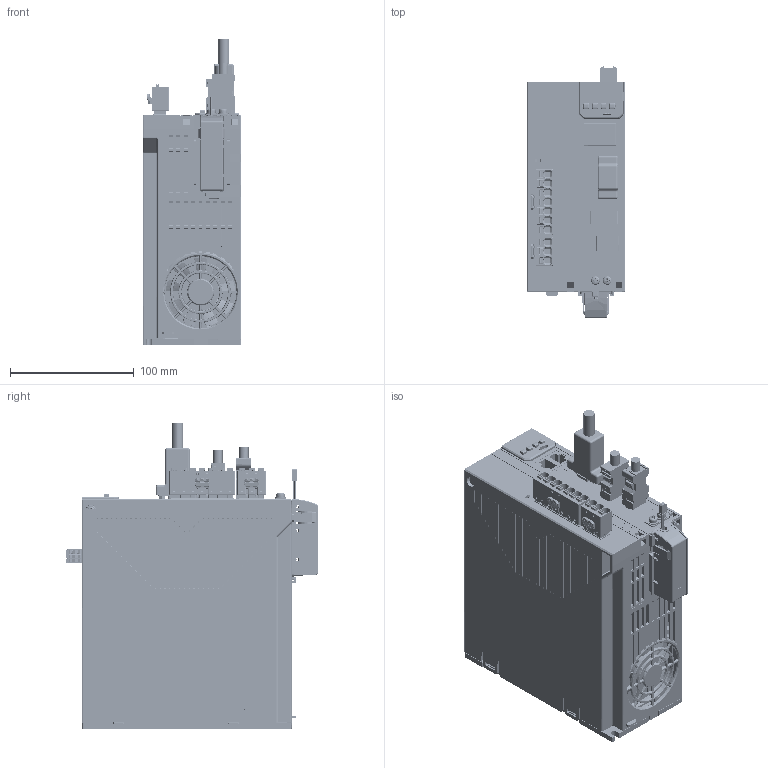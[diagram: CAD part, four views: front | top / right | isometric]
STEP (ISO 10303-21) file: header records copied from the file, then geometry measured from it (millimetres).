
FILE_DESCRIPTION((''),'2;1');
FILE_NAME('SD900-110D-EA_ASM','2025-09-28T',('v5489'),(''),'CREO PARAMETRIC BY PTC INC, 2018360','CREO PARAMETRIC BY PTC INC, 2018360','');
FILE_SCHEMA(('AP203_CONFIGURATION_CONTROLLED_3D_DESIGN_OF_MECHANICAL_PARTS_AND_ASSEMBLIES_MIM_LF { 1 0 10303 403 2 1 2 }'));
Products named in the file (19): 00-SD900-110D-EA_ASM_1_1; 00-SD900-110D-EA_ASM_1_2; 00-SD900-110D-EA_ASM_1_ASM; SD900-DCH-P001_284; SD900-DCH-N001_98; 14505_50_1; 14505_50_2; 14505_50_3; 14505_50_ASM; S6-C4A_31; SD900-DCH-P_ASM_535_ASM; SD900-DCH-P_ASM_ASM; 5006540609; 1394SM_10P_; F9AP-7_5-03P-A; F9AP-7_5-07P-A; DB-15-1; 15EDGKNH-3_5-04P-14-00A_H_; SD900-110D-EA_ASM
Assembly tree (18 placements, depth 5):
  SD900-110D-EA_ASM
    00-SD900-110D-EA_ASM_1_ASM
      00-SD900-110D-EA_ASM_1_1
      00-SD900-110D-EA_ASM_1_2
    SD900-DCH-P_ASM_ASM
      SD900-DCH-P_ASM_535_ASM
        SD900-DCH-P001_284
        SD900-DCH-N001_98
        14505_50_ASM
          14505_50_1
          14505_50_2
          14505_50_3
        S6-C4A_31
    5006540609
    1394SM_10P_
    F9AP-7_5-03P-A
    F9AP-7_5-07P-A
    DB-15-1
    15EDGKNH-3_5-04P-14-00A_H_
Bounding box: 80 x 204.5 x 247.35 mm (x, y, z)
Volume: 2295040.4 mm3; surface area: 364514.5 mm2
Topology: 21 solids, 68 shells, 18000 faces, 48050 edges, 30082 vertices
Faces by surface type: plane 9858, cylinder 4974, bspline 1193, torus 694, cone 552, sphere 442, extrusion 283, revolution 4
Entity records: 713575 total; most frequent: CARTESIAN_POINT 199980, ORIENTED_EDGE 95162, DIRECTION 82536, EDGE_CURVE 47630, VECTOR 31750, LINE 31467, VERTEX_POINT 30077, AXIS2_PLACEMENT_3D 25391
